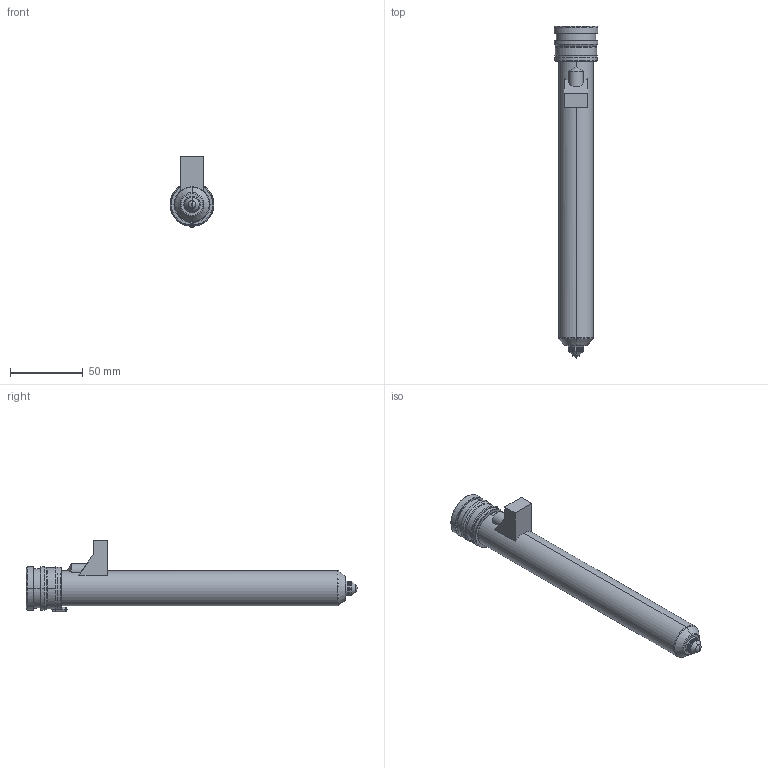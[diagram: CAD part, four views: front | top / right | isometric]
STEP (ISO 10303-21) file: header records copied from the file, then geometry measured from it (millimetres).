
FILE_DESCRIPTION((''),'2;1');
FILE_NAME('MPN-10-29-VX10-206-M','2026-02-05T12:58:08',('UPTIO'),('Thermoplay S.p.A.'),'CREO PARAMETRIC BY PTC INC, 2023494','CREO PARAMETRIC BY PTC INC, 2023494','');
FILE_SCHEMA(('CONFIG_CONTROL_DESIGN','SHAPE_APPEARANCE_LAYERS_GROUPS'));
Length unit declared in the file: millimetre
Products named in the file (1): MPN-10-29-VX10-206-M
Bounding box: 30 x 227.5 x 49 mm (x, y, z)
Volume: 69944.5 mm3; surface area: 72061.8 mm2
Topology: 3 solids, 5 shells, 547 faces, 1387 edges, 846 vertices
Faces by surface type: cylinder 179, plane 147, torus 71, bspline 70, cone 68, sphere 8, extrusion 4
Entity records: 28590 total; most frequent: CARTESIAN_POINT 12625, ORIENTED_EDGE 2760, DIRECTION 2638, EDGE_CURVE 1380, AXIS2_PLACEMENT_3D 1050, VERTEX_POINT 846, EDGE_LOOP 576, CIRCLE 576
